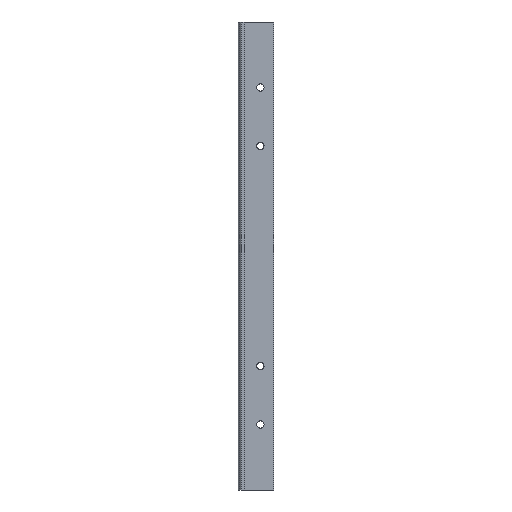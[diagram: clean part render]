
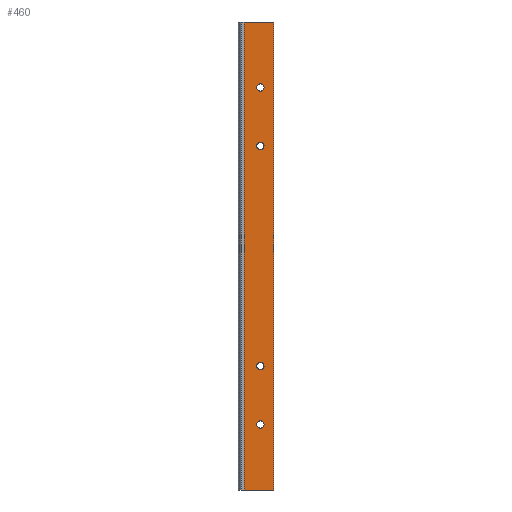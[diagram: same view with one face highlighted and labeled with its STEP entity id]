
A CAD part, front view. The second image highlights one B-rep face of the part: STEP entity #460.
In plain terms, the highlighted planar face has unit normal (0, -1, 0).
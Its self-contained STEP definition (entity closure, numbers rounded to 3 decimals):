
#2 = CARTESIAN_POINT ( 'NONE',  ( 0., 0., 0. ) ) ;
#3 = AXIS2_PLACEMENT_3D ( 'NONE', #166, #662, #520 ) ;
#9 = VECTOR ( 'NONE', #823, 1000. ) ;
#16 = CIRCLE ( 'NONE', #3, 2.5 ) ;
#19 = CARTESIAN_POINT ( 'NONE',  ( 20., 0., 320. ) ) ;
#20 = ORIENTED_EDGE ( 'NONE', *, *, #282, .T. ) ;
#26 = DIRECTION ( 'NONE',  ( 0., 0., 1. ) ) ;
#27 = VERTEX_POINT ( 'NONE', #338 ) ;
#31 = AXIS2_PLACEMENT_3D ( 'NONE', #886, #107, #26 ) ;
#35 = ORIENTED_EDGE ( 'NONE', *, *, #178, .T. ) ;
#38 = CARTESIAN_POINT ( 'NONE',  ( 0., 0., 320. ) ) ;
#73 = ORIENTED_EDGE ( 'NONE', *, *, #505, .T. ) ;
#79 = CARTESIAN_POINT ( 'NONE',  ( 20., 0., 0. ) ) ;
#95 = VERTEX_POINT ( 'NONE', #638 ) ;
#107 = DIRECTION ( 'NONE',  ( 0., 1., 0. ) ) ;
#118 = CARTESIAN_POINT ( 'NONE',  ( 0., 0., 0. ) ) ;
#123 = CIRCLE ( 'NONE', #216, 2.5 ) ;
#132 = VERTEX_POINT ( 'NONE', #701 ) ;
#166 = CARTESIAN_POINT ( 'NONE',  ( 11., 0., 44.75 ) ) ;
#178 = EDGE_CURVE ( 'NONE', #463, #463, #794, .T. ) ;
#187 = FACE_BOUND ( 'NONE', #633, .T. ) ;
#195 = DIRECTION ( 'NONE',  ( 0., 0., -1. ) ) ;
#201 = VERTEX_POINT ( 'NONE', #79 ) ;
#216 = AXIS2_PLACEMENT_3D ( 'NONE', #470, #456, #244 ) ;
#234 = ORIENTED_EDGE ( 'NONE', *, *, #362, .F. ) ;
#244 = DIRECTION ( 'NONE',  ( 0., 0., 1. ) ) ;
#257 = AXIS2_PLACEMENT_3D ( 'NONE', #437, #576, #789 ) ;
#263 = CARTESIAN_POINT ( 'NONE',  ( 0., 0., 320. ) ) ;
#282 = EDGE_CURVE ( 'NONE', #835, #835, #16, .T. ) ;
#301 = LINE ( 'NONE', #38, #590 ) ;
#335 = CARTESIAN_POINT ( 'NONE',  ( 11., 0., 47.25 ) ) ;
#338 = CARTESIAN_POINT ( 'NONE',  ( 11., 0., 87.25 ) ) ;
#362 = EDGE_CURVE ( 'NONE', #799, #201, #597, .T. ) ;
#376 = VECTOR ( 'NONE', #844, 1000. ) ;
#382 = EDGE_CURVE ( 'NONE', #132, #132, #123, .T. ) ;
#388 = EDGE_LOOP ( 'NONE', ( #647 ) ) ;
#401 = LINE ( 'NONE', #551, #693 ) ;
#417 = EDGE_LOOP ( 'NONE', ( #20 ) ) ;
#437 = CARTESIAN_POINT ( 'NONE',  ( 11., 0., 235.25 ) ) ;
#447 = CARTESIAN_POINT ( 'NONE',  ( 20., 0., 320. ) ) ;
#456 = DIRECTION ( 'NONE',  ( 0., 1., 0. ) ) ;
#460 = ADVANCED_FACE ( 'NONE', ( #713, #187, #678, #491, #732 ), #554, .F. ) ;
#463 = VERTEX_POINT ( 'NONE', #475 ) ;
#470 = CARTESIAN_POINT ( 'NONE',  ( 11., 0., 275.25 ) ) ;
#475 = CARTESIAN_POINT ( 'NONE',  ( 11., 0., 237.75 ) ) ;
#476 = DIRECTION ( 'NONE',  ( 1., 0., 0. ) ) ;
#491 = FACE_BOUND ( 'NONE', #417, .T. ) ;
#505 = EDGE_CURVE ( 'NONE', #714, #201, #862, .T. ) ;
#511 = EDGE_CURVE ( 'NONE', #95, #714, #301, .T. ) ;
#520 = DIRECTION ( 'NONE',  ( 0., 0., 1. ) ) ;
#551 = CARTESIAN_POINT ( 'NONE',  ( 0., 0., 320. ) ) ;
#554 = PLANE ( 'NONE',  #700 ) ;
#563 = EDGE_CURVE ( 'NONE', #95, #799, #401, .T. ) ;
#576 = DIRECTION ( 'NONE',  ( 0., 1., 0. ) ) ;
#590 = VECTOR ( 'NONE', #195, 1000. ) ;
#597 = LINE ( 'NONE', #447, #9 ) ;
#633 = EDGE_LOOP ( 'NONE', ( #35 ) ) ;
#638 = CARTESIAN_POINT ( 'NONE',  ( 0., 0., 320. ) ) ;
#647 = ORIENTED_EDGE ( 'NONE', *, *, #717, .T. ) ;
#655 = CIRCLE ( 'NONE', #31, 2.5 ) ;
#662 = DIRECTION ( 'NONE',  ( 0., 1., 0. ) ) ;
#667 = EDGE_LOOP ( 'NONE', ( #917 ) ) ;
#678 = FACE_BOUND ( 'NONE', #388, .T. ) ;
#693 = VECTOR ( 'NONE', #476, 1000. ) ;
#700 = AXIS2_PLACEMENT_3D ( 'NONE', #263, #777, #759 ) ;
#701 = CARTESIAN_POINT ( 'NONE',  ( 11., 0., 277.75 ) ) ;
#713 = FACE_BOUND ( 'NONE', #667, .T. ) ;
#714 = VERTEX_POINT ( 'NONE', #2 ) ;
#717 = EDGE_CURVE ( 'NONE', #27, #27, #655, .T. ) ;
#732 = FACE_OUTER_BOUND ( 'NONE', #745, .T. ) ;
#745 = EDGE_LOOP ( 'NONE', ( #73, #234, #906, #904 ) ) ;
#759 = DIRECTION ( 'NONE',  ( 0., 0., 1. ) ) ;
#777 = DIRECTION ( 'NONE',  ( 0., 1., 0. ) ) ;
#789 = DIRECTION ( 'NONE',  ( 0., 0., 1. ) ) ;
#794 = CIRCLE ( 'NONE', #257, 2.5 ) ;
#799 = VERTEX_POINT ( 'NONE', #19 ) ;
#823 = DIRECTION ( 'NONE',  ( 0., 0., -1. ) ) ;
#835 = VERTEX_POINT ( 'NONE', #335 ) ;
#844 = DIRECTION ( 'NONE',  ( 1., 0., 0. ) ) ;
#862 = LINE ( 'NONE', #118, #376 ) ;
#886 = CARTESIAN_POINT ( 'NONE',  ( 11., 0., 84.75 ) ) ;
#904 = ORIENTED_EDGE ( 'NONE', *, *, #511, .T. ) ;
#906 = ORIENTED_EDGE ( 'NONE', *, *, #563, .F. ) ;
#917 = ORIENTED_EDGE ( 'NONE', *, *, #382, .T. ) ;
